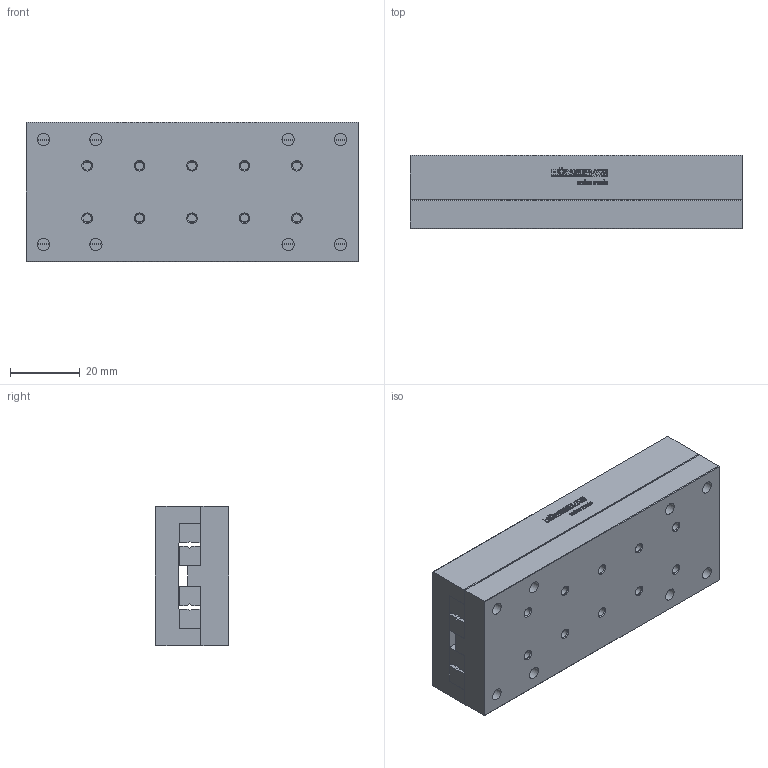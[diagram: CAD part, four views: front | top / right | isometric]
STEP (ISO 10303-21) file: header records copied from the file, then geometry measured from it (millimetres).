
FILE_DESCRIPTION(/* description */ ('STEP AP214'),/* implementation_level */ '2;1');
FILE_NAME(/* name */ 'NKL 2-95(0)',/* time_stamp */ '2025-04-23T07:58:04+02:00',/* author */ ('License CC BY-ND 4.0'),/* organization */ ('CADENAS'),/* preprocessor_version */ 'ST-DEVELOPER v19.3',/* originating_system */ 'PARTsolutions',/* authorisation */ ' ');
FILE_SCHEMA (('AUTOMOTIVE_DESIGN {1 0 10303 214 3 1 1}'));
Length unit declared in the file: millimetre
Products named in the file (3): NKL 2-95(0); NKL 2-95_1; NKL 2-95_2
Assembly tree (2 placements, depth 2):
  NKL 2-95(0)
    NKL 2-95_1
    NKL 2-95_2
Bounding box: 95 x 21 x 40 mm (x, y, z)
Volume: 74580 mm3; surface area: 29316.7 mm2
Topology: 2 solids, 2 shells, 675 faces, 1866 edges, 1220 vertices
Faces by surface type: cylinder 328, plane 307, cone 40
Full cylindrical faces by diameter (mm): 2.459 x20, 3.5 x8, 6 x8
Entity records: 21427 total; most frequent: DIRECTION 3842, CARTESIAN_POINT 3728, ORIENTED_EDGE 3560, EDGE_CURVE 1780, AXIS2_PLACEMENT_3D 1404, VERTEX_POINT 1210, LINE 1034, VECTOR 1034
